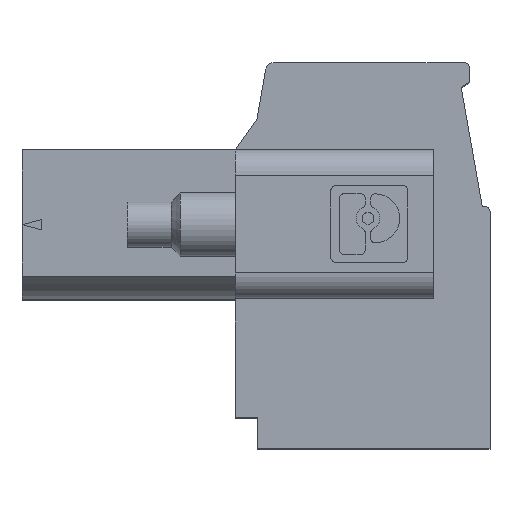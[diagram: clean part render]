
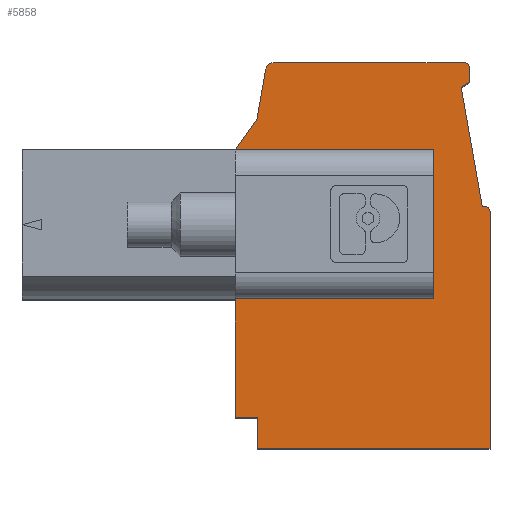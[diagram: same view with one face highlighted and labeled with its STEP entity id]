
A CAD part, top view. The second image highlights one B-rep face of the part: STEP entity #5858.
In plain terms, the highlighted planar face has unit normal (0, 0, 1).
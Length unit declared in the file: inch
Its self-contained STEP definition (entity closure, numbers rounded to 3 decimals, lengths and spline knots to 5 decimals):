
#1081=DIRECTION('',(-1.,0.,0.));
#1082=VECTOR('',#1081,0.03425);
#1083=CARTESIAN_POINT('',(1.95262,1.53987,0.1));
#1084=LINE('',#1083,#1082);
#1085=DIRECTION('',(-0.575,-0.818,0.));
#1086=VECTOR('',#1085,0.05701);
#1087=CARTESIAN_POINT('',(1.95113,1.99656,0.1));
#1088=LINE('',#1087,#1086);
#1089=DIRECTION('',(-0.174,-0.985,0.));
#1090=VECTOR('',#1089,0.07804);
#1091=CARTESIAN_POINT('',(1.96468,2.07342,0.1));
#1092=LINE('',#1091,#1090);
#1093=CARTESIAN_POINT('',(1.97632,2.07137,0.1));
#1094=DIRECTION('',(0.,0.,1.));
#1095=DIRECTION('',(0.,1.,0.));
#1096=AXIS2_PLACEMENT_3D('',#1093,#1094,#1095);
#1098=DIRECTION('',(-1.,0.,0.));
#1099=VECTOR('',#1098,0.29229);
#1100=CARTESIAN_POINT('',(2.2686,2.08318,0.1));
#1101=LINE('',#1100,#1099);
#1102=CARTESIAN_POINT('',(2.2686,2.0753,0.1));
#1103=DIRECTION('',(0.,0.,1.));
#1104=DIRECTION('',(0.999,0.044,0.));
#1105=AXIS2_PLACEMENT_3D('',#1102,#1103,#1104);
#1107=DIRECTION('',(-0.044,0.999,0.));
#1108=VECTOR('',#1107,0.02202);
#1109=CARTESIAN_POINT('',(2.27743,2.05365,0.1));
#1110=LINE('',#1109,#1108);
#1111=DIRECTION('',(0.866,0.5,0.));
#1112=VECTOR('',#1111,0.01548);
#1113=CARTESIAN_POINT('',(2.26402,2.04591,0.1));
#1114=LINE('',#1113,#1112);
#1115=DIRECTION('',(-0.174,0.985,0.));
#1116=VECTOR('',#1115,0.18603);
#1117=CARTESIAN_POINT('',(2.29633,1.8627,0.1));
#1118=LINE('',#1117,#1116);
#1119=CARTESIAN_POINT('',(2.30026,1.85483,0.1));
#1120=DIRECTION('',(0.,0.,1.));
#1121=DIRECTION('',(1.,0.,0.));
#1122=AXIS2_PLACEMENT_3D('',#1119,#1120,#1121);
#1124=DIRECTION('',(0.,1.,0.));
#1125=VECTOR('',#1124,0.3622);
#1126=CARTESIAN_POINT('',(2.30814,1.49263,0.1));
#1127=LINE('',#1126,#1125);
#1128=DIRECTION('',(1.,0.,0.));
#1129=VECTOR('',#1128,0.35551);
#1130=CARTESIAN_POINT('',(1.95262,1.49263,0.1));
#1131=LINE('',#1130,#1129);
#1132=DIRECTION('',(0.,-1.,0.));
#1133=VECTOR('',#1132,0.18169);
#1134=CARTESIAN_POINT('',(1.91837,1.72156,0.1));
#1135=LINE('',#1134,#1133);
#1136=DIRECTION('',(0.,-1.,0.));
#1137=VECTOR('',#1136,0.22835);
#1138=CARTESIAN_POINT('',(2.22152,1.94991,0.1));
#1139=LINE('',#1138,#1137);
#1144=DIRECTION('',(-1.,0.,0.));
#1145=VECTOR('',#1144,0.30315);
#1146=CARTESIAN_POINT('',(2.22152,1.94991,0.1));
#1147=LINE('',#1146,#1145);
#1180=DIRECTION('',(1.,0.,0.));
#1181=VECTOR('',#1180,0.30315);
#1182=CARTESIAN_POINT('',(1.91837,1.72156,0.1));
#1183=LINE('',#1182,#1181);
#1966=DIRECTION('',(1.,0.,0.));
#1967=VECTOR('',#1966,0.00394);
#1968=CARTESIAN_POINT('',(2.29633,1.8627,0.1));
#1969=LINE('',#1968,#1967);
#2034=DIRECTION('',(0.,1.,0.));
#2035=VECTOR('',#2034,0.04724);
#2036=CARTESIAN_POINT('',(1.95262,1.49263,0.1));
#2037=LINE('',#2036,#2035);
#3446=CARTESIAN_POINT('',(1.91837,1.94991,0.1));
#3447=VERTEX_POINT('',#3446);
#3456=CARTESIAN_POINT('',(1.91837,1.72156,0.1));
#3457=VERTEX_POINT('',#3456);
#3458=CARTESIAN_POINT('',(1.91837,1.53987,0.1));
#3459=VERTEX_POINT('',#3458);
#3552=CARTESIAN_POINT('',(2.27647,2.07565,0.1));
#3553=VERTEX_POINT('',#3552);
#3554=CARTESIAN_POINT('',(2.2686,2.08318,0.1));
#3555=VERTEX_POINT('',#3554);
#3632=CARTESIAN_POINT('',(2.29633,1.8627,0.1));
#3633=VERTEX_POINT('',#3632);
#3634=CARTESIAN_POINT('',(2.26402,2.04591,0.1));
#3635=VERTEX_POINT('',#3634);
#3648=CARTESIAN_POINT('',(2.30814,1.85483,0.1));
#3649=CARTESIAN_POINT('',(2.30026,1.8627,0.1));
#3650=VERTEX_POINT('',#3648);
#3651=VERTEX_POINT('',#3649);
#3670=CARTESIAN_POINT('',(1.95113,1.99656,0.1));
#3671=VERTEX_POINT('',#3670);
#3816=CARTESIAN_POINT('',(1.96468,2.07342,0.1));
#3817=VERTEX_POINT('',#3816);
#3981=CARTESIAN_POINT('',(1.97632,2.08318,0.1));
#3982=VERTEX_POINT('',#3981);
#4041=CARTESIAN_POINT('',(2.30814,1.49263,0.1));
#4042=VERTEX_POINT('',#4041);
#4071=CARTESIAN_POINT('',(1.95262,1.49263,0.1));
#4072=VERTEX_POINT('',#4071);
#4079=CARTESIAN_POINT('',(2.27743,2.05365,0.1));
#4080=VERTEX_POINT('',#4079);
#4320=CARTESIAN_POINT('',(1.95262,1.53987,0.1));
#4321=VERTEX_POINT('',#4320);
#4344=CARTESIAN_POINT('',(2.22152,1.72156,0.1));
#4345=VERTEX_POINT('',#4344);
#4346=CARTESIAN_POINT('',(2.22152,1.94991,0.1));
#4347=VERTEX_POINT('',#4346);
#5818=CARTESIAN_POINT('',(2.04718,1.90976,0.1));
#5819=DIRECTION('',(0.,0.,1.));
#5820=DIRECTION('',(1.,0.,0.));
#5821=AXIS2_PLACEMENT_3D('',#5818,#5819,#5820);
#5822=PLANE('',#5821);
#5824=ORIENTED_EDGE('',*,*,#5823,.T.);
#5825=ORIENTED_EDGE('',*,*,#4878,.F.);
#5827=ORIENTED_EDGE('',*,*,#5826,.F.);
#5829=ORIENTED_EDGE('',*,*,#5828,.F.);
#5831=ORIENTED_EDGE('',*,*,#5830,.F.);
#5833=ORIENTED_EDGE('',*,*,#5832,.F.);
#5835=ORIENTED_EDGE('',*,*,#5834,.F.);
#5837=ORIENTED_EDGE('',*,*,#5836,.F.);
#5839=ORIENTED_EDGE('',*,*,#5838,.F.);
#5841=ORIENTED_EDGE('',*,*,#5840,.T.);
#5843=ORIENTED_EDGE('',*,*,#5842,.F.);
#5845=ORIENTED_EDGE('',*,*,#5844,.F.);
#5847=ORIENTED_EDGE('',*,*,#5846,.F.);
#5849=ORIENTED_EDGE('',*,*,#5848,.T.);
#5850=ORIENTED_EDGE('',*,*,#5810,.T.);
#5851=ORIENTED_EDGE('',*,*,#4483,.F.);
#5853=ORIENTED_EDGE('',*,*,#5852,.T.);
#5855=ORIENTED_EDGE('',*,*,#5854,.F.);
#5856=EDGE_LOOP('',(#5824,#5825,#5827,#5829,#5831,#5833,#5835,#5837,#5839,#5841,
#5843,#5845,#5847,#5849,#5850,#5851,#5853,#5855));
#5857=FACE_OUTER_BOUND('',#5856,.F.);
#5858=ADVANCED_FACE('',(#5857),#5822,.T.);
#1097=CIRCLE('',#1096,0.01181);
#1106=CIRCLE('',#1105,0.00787);
#1123=CIRCLE('',#1122,0.00787);
#4483=EDGE_CURVE('',#3457,#3459,#1135,.T.);
#4878=EDGE_CURVE('',#3671,#3447,#1088,.T.);
#5810=EDGE_CURVE('',#4321,#3459,#1084,.T.);
#5823=EDGE_CURVE('',#4347,#3447,#1147,.T.);
#5826=EDGE_CURVE('',#3817,#3671,#1092,.T.);
#5828=EDGE_CURVE('',#3982,#3817,#1097,.T.);
#5830=EDGE_CURVE('',#3555,#3982,#1101,.T.);
#5832=EDGE_CURVE('',#3553,#3555,#1106,.T.);
#5834=EDGE_CURVE('',#4080,#3553,#1110,.T.);
#5836=EDGE_CURVE('',#3635,#4080,#1114,.T.);
#5838=EDGE_CURVE('',#3633,#3635,#1118,.T.);
#5840=EDGE_CURVE('',#3633,#3651,#1969,.T.);
#5842=EDGE_CURVE('',#3650,#3651,#1123,.T.);
#5844=EDGE_CURVE('',#4042,#3650,#1127,.T.);
#5846=EDGE_CURVE('',#4072,#4042,#1131,.T.);
#5848=EDGE_CURVE('',#4072,#4321,#2037,.T.);
#5852=EDGE_CURVE('',#3457,#4345,#1183,.T.);
#5854=EDGE_CURVE('',#4347,#4345,#1139,.T.);
